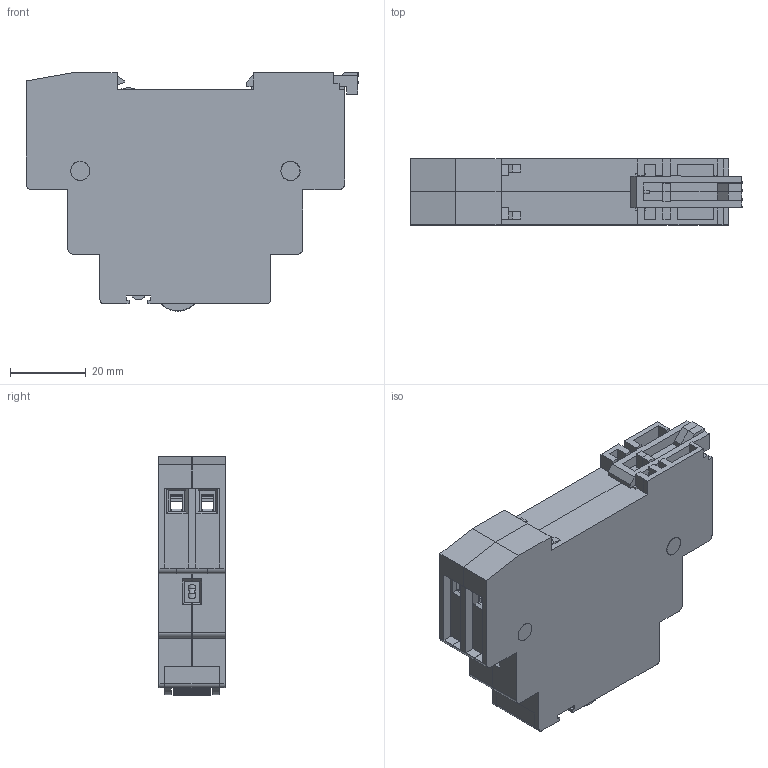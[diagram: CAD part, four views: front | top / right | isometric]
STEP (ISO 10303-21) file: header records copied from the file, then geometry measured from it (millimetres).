
FILE_DESCRIPTION(('STEP AP214'),'2;1');
FILE_NAME('2022-24-26-28.stp','2011-07-05T12:14:57',(''),(''),'2007.1.106','THINKDESIGN','');
FILE_SCHEMA(('AUTOMOTIVE_DESIGN'));
Products named in the file (1): None
Bounding box: 87.5 x 17.4 x 62.8 mm (x, y, z)
Surface area: 17826.2 mm2 (no closed solid volume)
Topology: 0 solids, 0 shells, 726 faces, 4103 edges, 4076 vertices
Faces by surface type: plane 590, cylinder 75, bspline 61
Full cylindrical faces by diameter (mm): 2.3 x6, 2.4 x2, 3 x5, 5.1 x2
Entity records: 43016 total; most frequent: CARTESIAN_POINT 13149, DIRECTION 5162, COMPOSITE_CURVE_SEGMENT 4101, TRIMMED_CURVE 3644, VECTOR 3508, LINE 3508, AXIS2_PLACEMENT_3D 827, OUTER_BOUNDARY_CURVE 726
